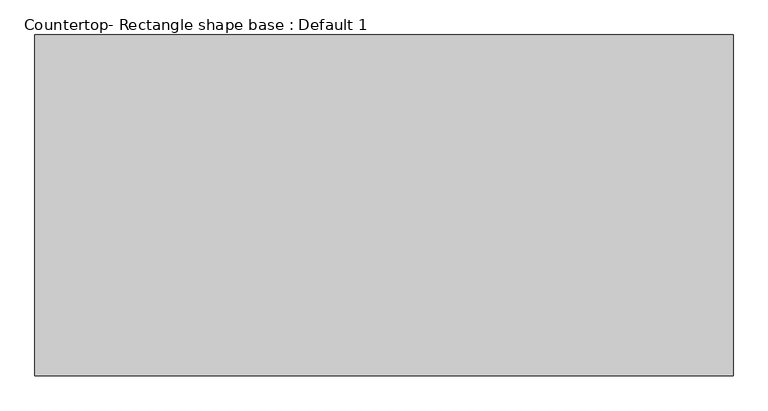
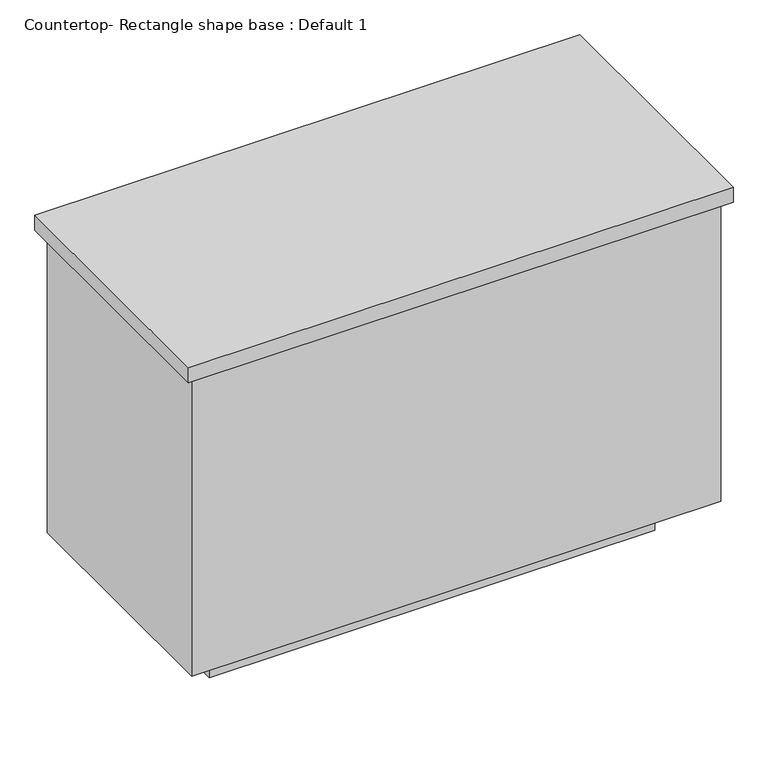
"""IFC4 building model written with IfcOpenShell, lengths in millimetres: proxy geometry, Countertop- Rectangle shape base : Default 1."""

from ifc_helpers import new_model, si_unit, frame, origin, origin_with_axes, place, context, project, spatial, polyline, outline, extrude, source, transform, mapped, element, save


def countertop_rectangle_shape_base_default_1_0af7198e(model_context):
    return source(origin(), model_context, "Body", "SweptSolid", [
        extrude(outline(polyline([(98.425, 57.15), (98.425, 704.85), (1425.575, 704.85), (1425.575, 57.15), (98.425, 57.15)])), frame((0.0, 0.0, 876.3), z_axis=(0.0, 0.0, 1.0), x_axis=(1.0, 0.0, 0.0)), (0.0, 0.0, 1.0), 38.1),
        extrude(outline(polyline([(1406.525, 685.8), (1406.525, 76.2), (117.475, 76.2), (117.475, 685.8), (1406.525, 685.8)])), frame((0.0, 0.0, 101.6), z_axis=(0.0, 0.0, 1.0), x_axis=(1.0, 0.0, 0.0)), (0.0, 0.0, 1.0), 774.7),
        extrude(outline(polyline([(1304.925, 584.2), (1304.925, 177.8), (219.075, 177.8), (219.075, 584.2), (1304.925, 584.2)])), origin_with_axes(), (0.0, 0.0, 1.0), 101.6),
    ])


if __name__ == "__main__":
    model = new_model("IFC4")
    model_context = context("Model", 3, world=origin())
    ifc_project = project(units=[si_unit("LENGTHUNIT", "METRE", prefix="MILLI")], contexts=[model_context])
    site = spatial("IfcSite", under=ifc_project)
    building = spatial("IfcBuilding", under=site)
    placement = place(None, origin())
    countertop_rectangle_shape_base_default_1_shape = countertop_rectangle_shape_base_default_1_0af7198e(model_context)
    element("IfcBuildingElementProxy", 1, Name="Countertop- Rectangle shape base : Default 1", ObjectType="Countertop- Rectangle shape base : Default 1", at=placement, inside=building, context=model_context, shape_type="MappedRepresentation", body=[
        mapped(countertop_rectangle_shape_base_default_1_shape, transform((0.0, 0.0, 0.0), x_axis=(1.0, 0.0, 0.0), y_axis=(0.0, 1.0, 0.0), z_axis=(0.0, 0.0, 1.0))),
    ])
    save(model, "model.ifc")
